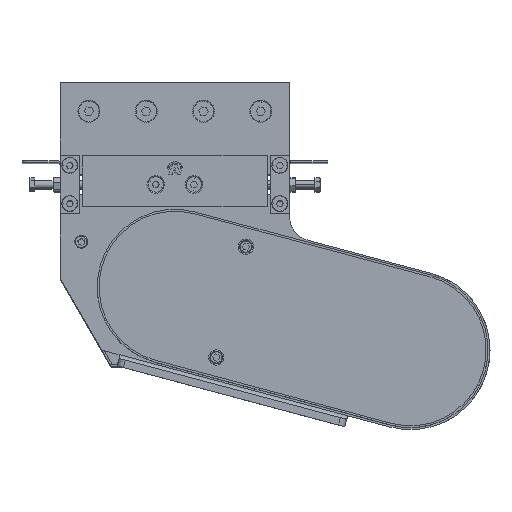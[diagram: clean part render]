
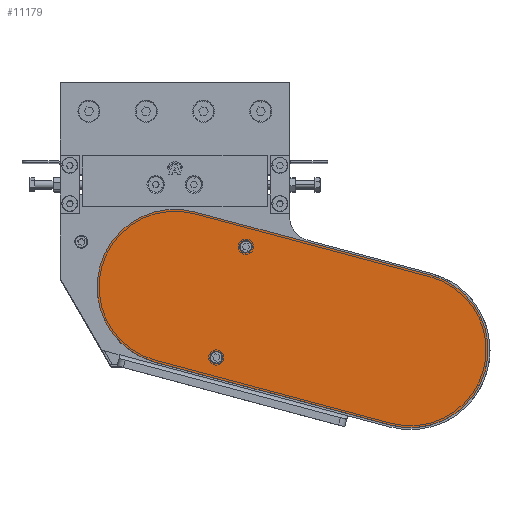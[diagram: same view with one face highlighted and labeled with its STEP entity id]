
A CAD part, top view. The second image highlights one B-rep face of the part: STEP entity #11179.
In plain terms, the highlighted planar face has unit normal (0, 0, 1).
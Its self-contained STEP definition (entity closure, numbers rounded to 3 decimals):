
#563 = VERTEX_POINT ( 'NONE', #799 ) ;
#669 = FACE_OUTER_BOUND ( 'NONE', #6812, .T. ) ;
#690 = CIRCLE ( 'NONE', #23462, 3.5 ) ;
#733 = DIRECTION ( 'NONE',  ( -0.258, -0.966, 0. ) ) ;
#799 = CARTESIAN_POINT ( 'NONE',  ( 31.645, -196.803, 235.5 ) ) ;
#1882 = DIRECTION ( 'NONE',  ( 0.966, -0.258, 0. ) ) ;
#2226 = FACE_BOUND ( 'NONE', #20358, .T. ) ;
#2830 = CIRCLE ( 'NONE', #6222, 61. ) ;
#3216 = ORIENTED_EDGE ( 'NONE', *, *, #12238, .F. ) ;
#3343 = VERTEX_POINT ( 'NONE', #12041 ) ;
#4514 = VERTEX_POINT ( 'NONE', #24091 ) ;
#4560 = DIRECTION ( 'NONE',  ( 0., 0., 1. ) ) ;
#5609 = DIRECTION ( 'NONE',  ( 0., 0., 1. ) ) ;
#6204 = ORIENTED_EDGE ( 'NONE', *, *, #24485, .F. ) ;
#6222 = AXIS2_PLACEMENT_3D ( 'NONE', #29187, #21678, #14066 ) ;
#6742 = AXIS2_PLACEMENT_3D ( 'NONE', #17390, #29911, #22293 ) ;
#6812 = EDGE_LOOP ( 'NONE', ( #27925, #3216, #13208, #6204 ) ) ;
#7225 = DIRECTION ( 'NONE',  ( -0.966, 0.258, 0. ) ) ;
#7247 = DIRECTION ( 'NONE',  ( -0.258, -0.966, 0. ) ) ;
#7678 = EDGE_CURVE ( 'NONE', #17313, #30240, #2830, .T. ) ;
#7902 = VECTOR ( 'NONE', #1882, 1000. ) ;
#8304 = CARTESIAN_POINT ( 'NONE',  ( 55.777, -106.471, 235.5 ) ) ;
#8551 = EDGE_CURVE ( 'NONE', #28579, #4514, #12863, .T. ) ;
#9672 = EDGE_LOOP ( 'NONE', ( #10657, #23327 ) ) ;
#9916 = DIRECTION ( 'NONE',  ( 0., 0., 1. ) ) ;
#10583 = AXIS2_PLACEMENT_3D ( 'NONE', #14500, #12446, #17011 ) ;
#10657 = ORIENTED_EDGE ( 'NONE', *, *, #18766, .F. ) ;
#11179 = ADVANCED_FACE ( 'NONE', ( #21228, #2226, #669 ), #24954, .F. ) ;
#11393 = CIRCLE ( 'NONE', #29309, 3.5 ) ;
#12041 = CARTESIAN_POINT ( 'NONE',  ( 33.452, -190.041, 235.5 ) ) ;
#12238 = EDGE_CURVE ( 'NONE', #4514, #17313, #27616, .T. ) ;
#12446 = DIRECTION ( 'NONE',  ( 0., 0., -1. ) ) ;
#12484 = EDGE_CURVE ( 'NONE', #20187, #29791, #20646, .T. ) ;
#12591 = CARTESIAN_POINT ( 'NONE',  ( 54.874, -109.853, 235.5 ) ) ;
#12863 = CIRCLE ( 'NONE', #10583, 61. ) ;
#13208 = ORIENTED_EDGE ( 'NONE', *, *, #8551, .F. ) ;
#13705 = LINE ( 'NONE', #21944, #7902 ) ;
#14066 = DIRECTION ( 'NONE',  ( -0.258, -0.966, 0. ) ) ;
#14094 = CIRCLE ( 'NONE', #23928, 3.5 ) ;
#14500 = CARTESIAN_POINT ( 'NONE',  ( 184.975, -187.564, 235.5 ) ) ;
#15255 = EDGE_CURVE ( 'NONE', #563, #3343, #690, .T. ) ;
#17011 = DIRECTION ( 'NONE',  ( -0.258, -0.966, 0. ) ) ;
#17313 = VERTEX_POINT ( 'NONE', #23185 ) ;
#17390 = CARTESIAN_POINT ( 'NONE',  ( -0.037, -138.139, 235.5 ) ) ;
#18457 = DIRECTION ( 'NONE',  ( -0.258, -0.966, 0. ) ) ;
#18486 = EDGE_CURVE ( 'NONE', #3343, #563, #14094, .T. ) ;
#18766 = EDGE_CURVE ( 'NONE', #29791, #20187, #11393, .T. ) ;
#19272 = ORIENTED_EDGE ( 'NONE', *, *, #18486, .F. ) ;
#20187 = VERTEX_POINT ( 'NONE', #29252 ) ;
#20295 = AXIS2_PLACEMENT_3D ( 'NONE', #8304, #5609, #733 ) ;
#20358 = EDGE_LOOP ( 'NONE', ( #24512, #19272 ) ) ;
#20646 = CIRCLE ( 'NONE', #20295, 3.5 ) ;
#21061 = VECTOR ( 'NONE', #7225, 1000. ) ;
#21228 = FACE_BOUND ( 'NONE', #9672, .T. ) ;
#21678 = DIRECTION ( 'NONE',  ( 0., 0., -1. ) ) ;
#21944 = CARTESIAN_POINT ( 'NONE',  ( 15.707, -79.205, 235.5 ) ) ;
#22293 = DIRECTION ( 'NONE',  ( -0.258, -0.966, 0. ) ) ;
#22309 = CARTESIAN_POINT ( 'NONE',  ( 32.549, -193.422, 235.5 ) ) ;
#22729 = CARTESIAN_POINT ( 'NONE',  ( 200.719, -128.631, 235.5 ) ) ;
#23185 = CARTESIAN_POINT ( 'NONE',  ( -15.781, -197.072, 235.5 ) ) ;
#23327 = ORIENTED_EDGE ( 'NONE', *, *, #12484, .F. ) ;
#23462 = AXIS2_PLACEMENT_3D ( 'NONE', #22309, #9916, #27128 ) ;
#23928 = AXIS2_PLACEMENT_3D ( 'NONE', #28365, #30637, #18457 ) ;
#24091 = CARTESIAN_POINT ( 'NONE',  ( 169.231, -246.497, 235.5 ) ) ;
#24461 = CARTESIAN_POINT ( 'NONE',  ( -15.781, -197.072, 235.5 ) ) ;
#24485 = EDGE_CURVE ( 'NONE', #30240, #28579, #13705, .T. ) ;
#24512 = ORIENTED_EDGE ( 'NONE', *, *, #15255, .F. ) ;
#24695 = CARTESIAN_POINT ( 'NONE',  ( 55.777, -106.471, 235.5 ) ) ;
#24954 = PLANE ( 'NONE',  #6742 ) ;
#27128 = DIRECTION ( 'NONE',  ( -0.258, -0.966, 0. ) ) ;
#27616 = LINE ( 'NONE', #24461, #21061 ) ;
#27925 = ORIENTED_EDGE ( 'NONE', *, *, #7678, .F. ) ;
#28365 = CARTESIAN_POINT ( 'NONE',  ( 32.549, -193.422, 235.5 ) ) ;
#28579 = VERTEX_POINT ( 'NONE', #22729 ) ;
#29187 = CARTESIAN_POINT ( 'NONE',  ( -0.037, -138.139, 235.5 ) ) ;
#29252 = CARTESIAN_POINT ( 'NONE',  ( 56.68, -103.09, 235.5 ) ) ;
#29309 = AXIS2_PLACEMENT_3D ( 'NONE', #24695, #4560, #7247 ) ;
#29791 = VERTEX_POINT ( 'NONE', #12591 ) ;
#29911 = DIRECTION ( 'NONE',  ( 0., 0., -1. ) ) ;
#30240 = VERTEX_POINT ( 'NONE', #31827 ) ;
#30637 = DIRECTION ( 'NONE',  ( 0., 0., 1. ) ) ;
#31827 = CARTESIAN_POINT ( 'NONE',  ( 15.707, -79.205, 235.5 ) ) ;
